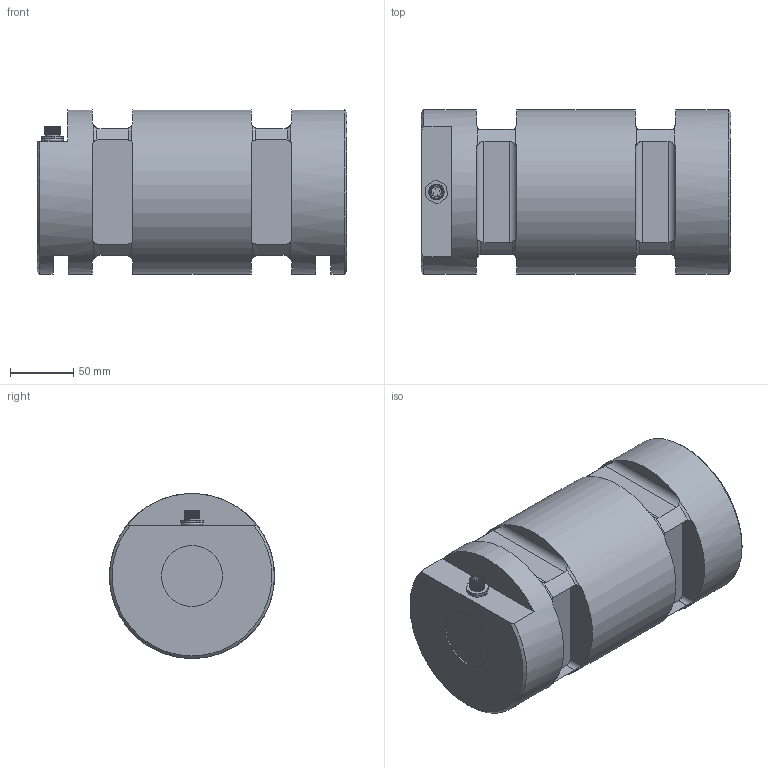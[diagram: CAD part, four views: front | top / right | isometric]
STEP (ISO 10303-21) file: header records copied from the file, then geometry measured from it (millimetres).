
FILE_DESCRIPTION(/* description */ ('Alibre Inc.'),/* implementation_level */ '2;1');
FILE_NAME(/* name */ 'export0',/* time_stamp */ '2012-07-19T16:30:44+02:00',/* author */ (''),/* organization */ (''),/* preprocessor_version */ 'ST-DEVELOPER v10',/* originating_system */ 'Alibre',/* authorisation */ '');
FILE_SCHEMA (('CONFIG_CONTROL_DESIGN'));
Length unit declared in the file: centimetre
Products named in the file (6): ID_1; ID_2; ID_3
Bounding box: 244 x 130 x 130 mm (x, y, z)
Volume: 2851382.6 mm3; surface area: 151523.6 mm2
Topology: 8 solids, 8 shells, 202 faces, 497 edges, 317 vertices
Faces by surface type: plane 97, cylinder 71, bspline 23, cone 6, torus 5
Full cylindrical faces by diameter (mm): 0.5 x8, 7 x1, 8 x2, 10 x3, 10.376 x1, 11.5 x1, 13 x1, 48 x1, 130 x3
Entity records: 17274 total; most frequent: CARTESIAN_POINT 12735, ORIENTED_EDGE 916, DIRECTION 593, EDGE_CURVE 453, VERTEX_POINT 303, AXIS2_PLACEMENT_3D 256, FACE_BOUND 245, EDGE_LOOP 244
